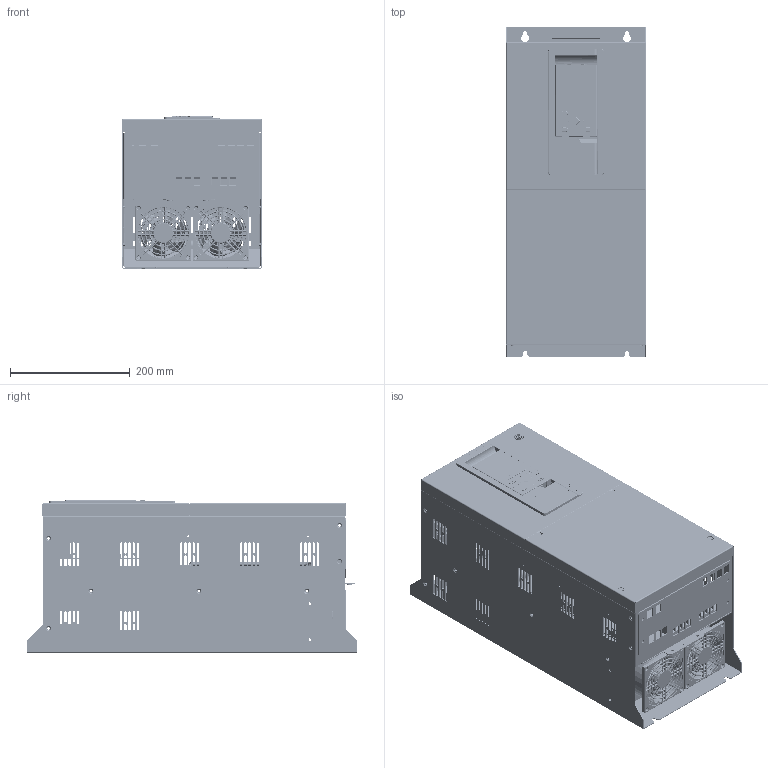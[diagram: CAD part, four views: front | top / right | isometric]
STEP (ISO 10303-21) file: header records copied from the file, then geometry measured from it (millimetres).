
FILE_DESCRIPTION(('STEP AP203'), '1');
FILE_NAME('F5', '', ('UNSPECIFIED'), ('UNSPECIFIED'), 'C3D Converter', 'C3D Toolkit', '');
FILE_SCHEMA(('CONFIG_CONTROL_DESIGN'));
Length unit declared in the file: millimetre
Products named in the file (1): INPRIME-G45-4BF
Bounding box: 233.1 x 550 x 255.59 mm (x, y, z)
Surface area: 2063086 mm2
Topology: 14 solids, 742 shells, 5300 faces, 21187 edges, 16301 vertices
Faces by surface type: plane 2840, cylinder 1580, bspline 370, torus 316, cone 194
Full cylindrical faces by diameter (mm): 0.98 x49, 1 x18, 1.08 x5, 1.1 x25, 1.12 x11, 1.48 x15, 1.5 x6, 1.58 x2, 1.6 x6, 1.62 x6, 3 x7, 3.3 x7, 4 x23, 4.2 x8, 4.3 x8, 4.5 x8, 5 x4, 5.192 x4, 5.5 x4, 6 x9, 8 x12, 9 x2, 10 x1, 36 x2, 84 x2, 91.6 x2
Entity records: 318657 total; most frequent: CARTESIAN_POINT 104689, DIRECTION 31231, ORIENTED_EDGE 29921, EDGE_CURVE 20798, VERTEX_POINT 16294, LINE 12853, VECTOR 12853, AXIS2_PLACEMENT_3D 9189
